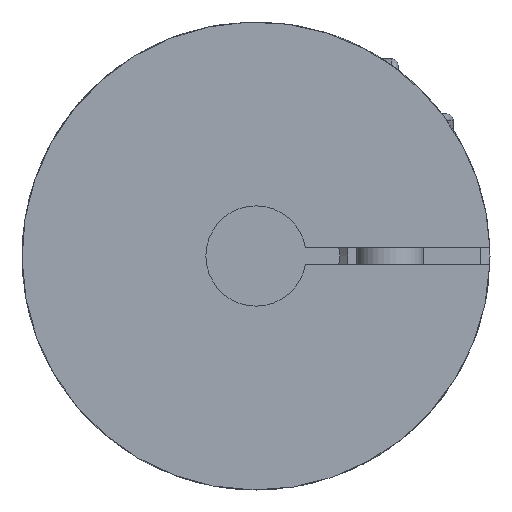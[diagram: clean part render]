
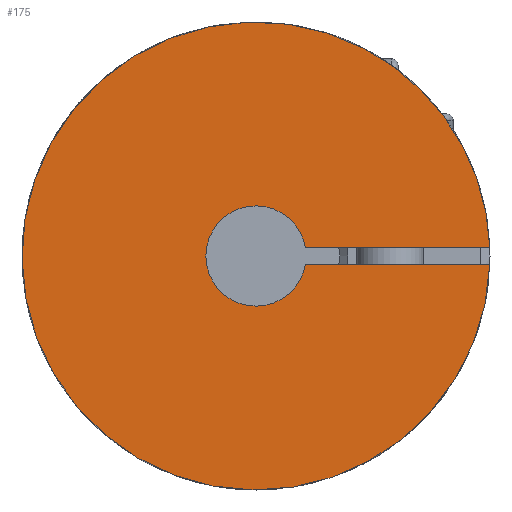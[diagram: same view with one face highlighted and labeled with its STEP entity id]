
A CAD part, left-side view. The second image highlights one B-rep face of the part: STEP entity #175.
In plain terms, the highlighted planar face has unit normal (-1, 0, 0).
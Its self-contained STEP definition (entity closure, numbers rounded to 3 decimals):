
#175 = ADVANCED_FACE( '', ( #457 ), #458, .T. );
#457 = FACE_OUTER_BOUND( '', #876, .T. );
#458 = PLANE( '', #877 );
#876 = EDGE_LOOP( '', ( #1349, #1350, #1351, #1352 ) );
#877 = AXIS2_PLACEMENT_3D( '', #1353, #1354, #1355 );
#1349 = ORIENTED_EDGE( '', *, *, #2363, .T. );
#1350 = ORIENTED_EDGE( '', *, *, #2368, .T. );
#1351 = ORIENTED_EDGE( '', *, *, #2369, .T. );
#1352 = ORIENTED_EDGE( '', *, *, #2370, .T. );
#1353 = CARTESIAN_POINT( '', ( -8., 0., 2.5 ) );
#1354 = DIRECTION( '', ( -1., 0., 0. ) );
#1355 = DIRECTION( '', ( 0., 0., 1. ) );
#2363 = EDGE_CURVE( '', #2807, #2808, #2809, .T. );
#2368 = EDGE_CURVE( '', #2808, #2816, #2817, .T. );
#2369 = EDGE_CURVE( '', #2816, #2818, #2819, .T. );
#2370 = EDGE_CURVE( '', #2818, #2807, #2820, .T. );
#2807 = VERTEX_POINT( '', #3421 );
#2808 = VERTEX_POINT( '', #3422 );
#2809 = LINE( '', #3423, #3424 );
#2816 = VERTEX_POINT( '', #3434 );
#2817 = CIRCLE( '', #3435, 1.5 );
#2818 = VERTEX_POINT( '', #3436 );
#2819 = LINE( '', #3437, #3438 );
#2820 = CIRCLE( '', #3439, 7. );
#3421 = CARTESIAN_POINT( '', ( -8., -6.996, -0.25 ) );
#3422 = CARTESIAN_POINT( '', ( -8., -1.479, -0.25 ) );
#3423 = CARTESIAN_POINT( '', ( -8., 0., -0.25 ) );
#3424 = VECTOR( '', #4821, 1000. );
#3434 = CARTESIAN_POINT( '', ( -8., -1.479, 0.25 ) );
#3435 = AXIS2_PLACEMENT_3D( '', #4825, #4826, #4827 );
#3436 = CARTESIAN_POINT( '', ( -8., -6.996, 0.25 ) );
#3437 = CARTESIAN_POINT( '', ( -8., 0., 0.25 ) );
#3438 = VECTOR( '', #4828, 1000. );
#3439 = AXIS2_PLACEMENT_3D( '', #4829, #4830, #4831 );
#4821 = DIRECTION( '', ( 0., 1., 0. ) );
#4825 = CARTESIAN_POINT( '', ( -8., 0., 0. ) );
#4826 = DIRECTION( '', ( 1., 0., 0. ) );
#4827 = DIRECTION( '', ( 0., -1., 0. ) );
#4828 = DIRECTION( '', ( 0., -1., 0. ) );
#4829 = CARTESIAN_POINT( '', ( -8., 0., 0. ) );
#4830 = DIRECTION( '', ( -1., 0., 0. ) );
#4831 = DIRECTION( '', ( 0., 0., 1. ) );
